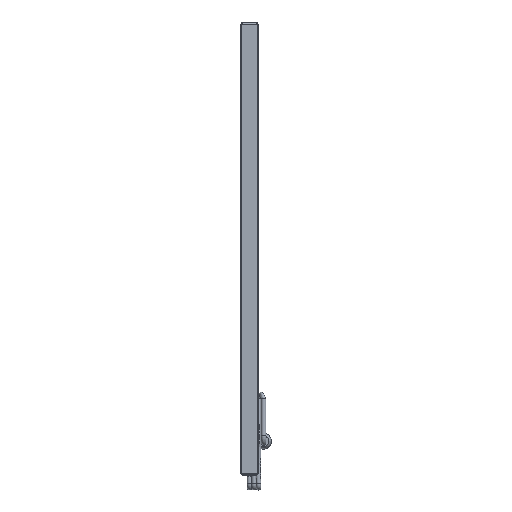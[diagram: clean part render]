
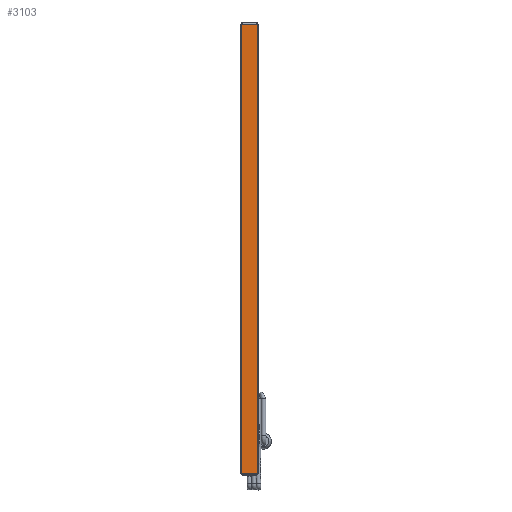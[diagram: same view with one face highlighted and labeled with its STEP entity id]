
A CAD part, front view. The second image highlights one B-rep face of the part: STEP entity #3103.
In plain terms, the highlighted planar face has unit normal (0, -1, 0).
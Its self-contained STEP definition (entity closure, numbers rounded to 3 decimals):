
#2825=CARTESIAN_POINT('',(18.421,0.,1066.8));
#2826=VERTEX_POINT('',#2825);
#2834=CARTESIAN_POINT('',(18.421,0.,0.0));
#2835=VERTEX_POINT('',#2834);
#2836=CARTESIAN_POINT('',(18.421,0.0,1066.8));
#2837=DIRECTION('',(0.0,0.0,-1.0));
#2838=VECTOR('',#2837,1066.8);
#2839=LINE('',#2836,#2838);
#2840=EDGE_CURVE('',#2826,#2835,#2839,.T.);
#2866=CARTESIAN_POINT('',(-18.421,0.,0.0));
#2867=VERTEX_POINT('',#2866);
#2868=CARTESIAN_POINT('',(-18.421,0.,0.0));
#2869=DIRECTION('',(1.0,0.0,0.0));
#2870=VECTOR('',#2869,36.842);
#2871=LINE('',#2868,#2870);
#2872=EDGE_CURVE('',#2867,#2835,#2871,.T.);
#3080=CARTESIAN_POINT('',(18.735,0.0,0.0));
#3081=DIRECTION('',(0.0,-1.0,0.0));
#3082=DIRECTION('',(0.0,0.0,-1.0));
#3083=AXIS2_PLACEMENT_3D('',#3080,#3081,#3082);
#3084=PLANE('',#3083);
#3085=ORIENTED_EDGE('',*,*,#2840,.F.);
#3086=CARTESIAN_POINT('',(-18.421,0.,1066.8));
#3087=VERTEX_POINT('',#3086);
#3088=CARTESIAN_POINT('',(18.421,0.,1066.8));
#3089=DIRECTION('',(-1.0,0.0,0.0));
#3090=VECTOR('',#3089,36.842);
#3091=LINE('',#3088,#3090);
#3092=EDGE_CURVE('',#2826,#3087,#3091,.T.);
#3093=ORIENTED_EDGE('',*,*,#3092,.T.);
#3094=CARTESIAN_POINT('',(-18.421,0.0,0.0));
#3095=DIRECTION('',(0.0,0.0,1.0));
#3096=VECTOR('',#3095,1066.8);
#3097=LINE('',#3094,#3096);
#3098=EDGE_CURVE('',#2867,#3087,#3097,.T.);
#3099=ORIENTED_EDGE('',*,*,#3098,.F.);
#3100=ORIENTED_EDGE('',*,*,#2872,.T.);
#3101=EDGE_LOOP('',(#3085,#3093,#3099,#3100));
#3102=FACE_OUTER_BOUND('',#3101,.T.);
#3103=ADVANCED_FACE('',(#3102),#3084,.T.);
